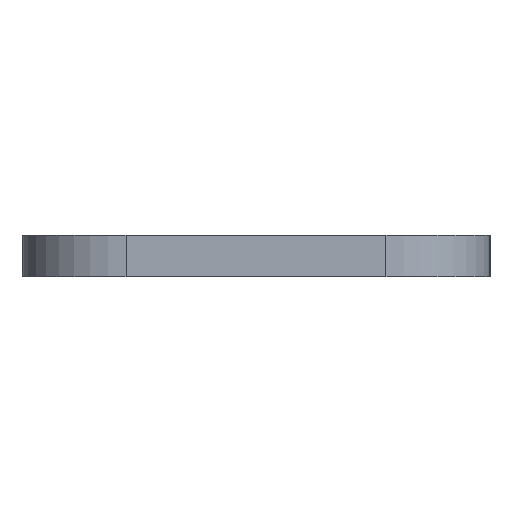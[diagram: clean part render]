
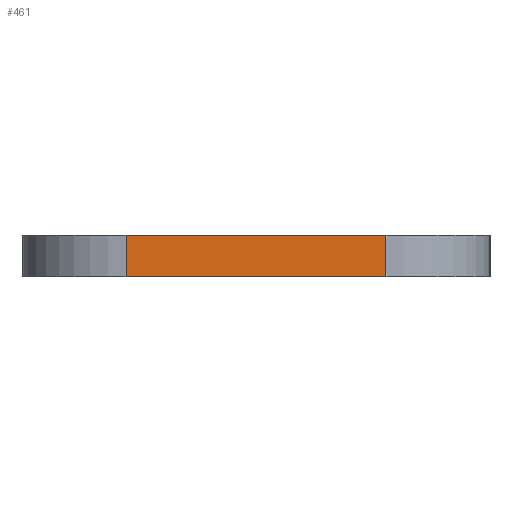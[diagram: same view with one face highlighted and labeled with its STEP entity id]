
A CAD part, left-side view. The second image highlights one B-rep face of the part: STEP entity #461.
In plain terms, the highlighted planar face has unit normal (-1, 0, 0).
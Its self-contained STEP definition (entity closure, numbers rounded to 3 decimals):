
#30 = VERTEX_POINT ( 'NONE', #176 ) ;
#63 = VECTOR ( 'NONE', #1333, 1000. ) ;
#82 = DIRECTION ( 'NONE',  ( 0., -1., 0. ) ) ;
#126 = LINE ( 'NONE', #1063, #1265 ) ;
#176 = CARTESIAN_POINT ( 'NONE',  ( 0., 10., 0. ) ) ;
#244 = LINE ( 'NONE', #1402, #1003 ) ;
#307 = ORIENTED_EDGE ( 'NONE', *, *, #712, .F. ) ;
#362 = EDGE_LOOP ( 'NONE', ( #1305, #307, #859, #1064 ) ) ;
#461 = ADVANCED_FACE ( 'NONE', ( #1007 ), #733, .F. ) ;
#573 = CARTESIAN_POINT ( 'NONE',  ( 0., 10., 4. ) ) ;
#709 = CARTESIAN_POINT ( 'NONE',  ( 0., 10., 4. ) ) ;
#712 = EDGE_CURVE ( 'NONE', #912, #30, #936, .T. ) ;
#725 = CARTESIAN_POINT ( 'NONE',  ( 0., 35., 0. ) ) ;
#733 = PLANE ( 'NONE',  #782 ) ;
#735 = DIRECTION ( 'NONE',  ( 0., 0., -1. ) ) ;
#759 = VERTEX_POINT ( 'NONE', #1210 ) ;
#781 = CARTESIAN_POINT ( 'NONE',  ( 0., 10., 0. ) ) ;
#782 = AXIS2_PLACEMENT_3D ( 'NONE', #709, #836, #1393 ) ;
#836 = DIRECTION ( 'NONE',  ( 1., 0., 0. ) ) ;
#859 = ORIENTED_EDGE ( 'NONE', *, *, #1317, .F. ) ;
#902 = LINE ( 'NONE', #781, #1266 ) ;
#912 = VERTEX_POINT ( 'NONE', #573 ) ;
#936 = LINE ( 'NONE', #1193, #63 ) ;
#1003 = VECTOR ( 'NONE', #82, 1000. ) ;
#1007 = FACE_OUTER_BOUND ( 'NONE', #362, .T. ) ;
#1039 = EDGE_CURVE ( 'NONE', #1239, #30, #902, .T. ) ;
#1063 = CARTESIAN_POINT ( 'NONE',  ( 0., 35., 4. ) ) ;
#1064 = ORIENTED_EDGE ( 'NONE', *, *, #1307, .T. ) ;
#1193 = CARTESIAN_POINT ( 'NONE',  ( 0., 10., 4. ) ) ;
#1210 = CARTESIAN_POINT ( 'NONE',  ( 0., 35., 4. ) ) ;
#1239 = VERTEX_POINT ( 'NONE', #725 ) ;
#1265 = VECTOR ( 'NONE', #735, 1000. ) ;
#1266 = VECTOR ( 'NONE', #1335, 1000. ) ;
#1305 = ORIENTED_EDGE ( 'NONE', *, *, #1039, .T. ) ;
#1307 = EDGE_CURVE ( 'NONE', #759, #1239, #126, .T. ) ;
#1317 = EDGE_CURVE ( 'NONE', #759, #912, #244, .T. ) ;
#1333 = DIRECTION ( 'NONE',  ( 0., 0., -1. ) ) ;
#1335 = DIRECTION ( 'NONE',  ( 0., -1., 0. ) ) ;
#1393 = DIRECTION ( 'NONE',  ( 0., 0., -1. ) ) ;
#1402 = CARTESIAN_POINT ( 'NONE',  ( 0., 10., 4. ) ) ;
